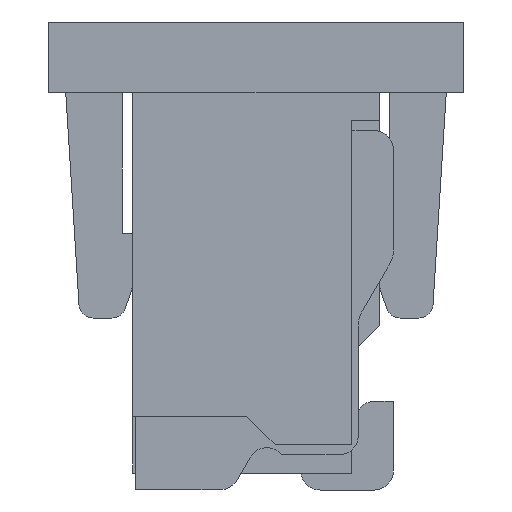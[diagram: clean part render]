
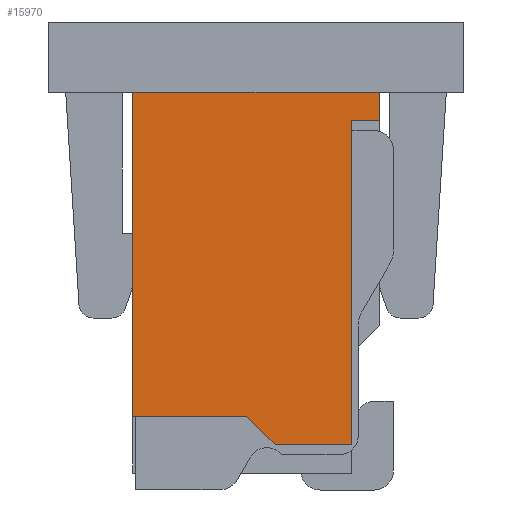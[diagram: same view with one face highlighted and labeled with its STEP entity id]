
A CAD part, left-side view. The second image highlights one B-rep face of the part: STEP entity #15970.
In plain terms, the highlighted planar face has unit normal (-1, 0, 0).
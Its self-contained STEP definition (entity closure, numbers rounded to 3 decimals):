
#46 = CARTESIAN_POINT ( 'NONE',  ( -4.325, 0.875, 1.35 ) ) ;
#1903 = ORIENTED_EDGE ( 'NONE', *, *, #24919, .F. ) ;
#1910 = VECTOR ( 'NONE', #14390, 1000. ) ;
#1976 = VERTEX_POINT ( 'NONE', #5256 ) ;
#2198 = CARTESIAN_POINT ( 'NONE',  ( -4.325, 0.875, -0.95 ) ) ;
#2320 = DIRECTION ( 'NONE',  ( -1., 0., 0. ) ) ;
#2381 = LINE ( 'NONE', #6657, #15160 ) ;
#2726 = ORIENTED_EDGE ( 'NONE', *, *, #3357, .F. ) ;
#2975 = CARTESIAN_POINT ( 'NONE',  ( -4.325, -0.875, 1.15 ) ) ;
#3357 = EDGE_CURVE ( 'NONE', #6268, #14417, #2381, .T. ) ;
#3622 = EDGE_CURVE ( 'NONE', #10567, #11619, #19929, .T. ) ;
#3997 = VECTOR ( 'NONE', #19440, 1000. ) ;
#4145 = FACE_OUTER_BOUND ( 'NONE', #9639, .T. ) ;
#4371 = VECTOR ( 'NONE', #19520, 1000. ) ;
#4597 = CARTESIAN_POINT ( 'NONE',  ( -4.325, -0.875, 1.15 ) ) ;
#5164 = VECTOR ( 'NONE', #8566, 1000. ) ;
#5253 = CARTESIAN_POINT ( 'NONE',  ( -4.325, -0.135, -1.15 ) ) ;
#5256 = CARTESIAN_POINT ( 'NONE',  ( -4.325, -0.135, -1.15 ) ) ;
#5651 = VECTOR ( 'NONE', #8804, 1000. ) ;
#5740 = VECTOR ( 'NONE', #5752, 1000. ) ;
#5752 = DIRECTION ( 'NONE',  ( 0., 0.707, 0.707 ) ) ;
#5875 = CARTESIAN_POINT ( 'NONE',  ( -4.325, -0.135, -1.15 ) ) ;
#6268 = VERTEX_POINT ( 'NONE', #46 ) ;
#6380 = AXIS2_PLACEMENT_3D ( 'NONE', #16268, #2320, #12404 ) ;
#6657 = CARTESIAN_POINT ( 'NONE',  ( -4.325, 0.875, 1.35 ) ) ;
#6837 = CARTESIAN_POINT ( 'NONE',  ( -4.325, -0.675, -1.15 ) ) ;
#7884 = EDGE_CURVE ( 'NONE', #19962, #6268, #24210, .T. ) ;
#8337 = EDGE_CURVE ( 'NONE', #10567, #14417, #18614, .T. ) ;
#8566 = DIRECTION ( 'NONE',  ( 0., 1., 0. ) ) ;
#8619 = VECTOR ( 'NONE', #21051, 1000. ) ;
#8804 = DIRECTION ( 'NONE',  ( 0., 0., 1. ) ) ;
#8985 = ORIENTED_EDGE ( 'NONE', *, *, #8337, .T. ) ;
#9639 = EDGE_LOOP ( 'NONE', ( #10786, #12857, #14788, #8985, #2726, #15422, #17906, #1903 ) ) ;
#9753 = LINE ( 'NONE', #5875, #5740 ) ;
#9826 = VERTEX_POINT ( 'NONE', #17043 ) ;
#9847 = EDGE_CURVE ( 'NONE', #22292, #11619, #16796, .T. ) ;
#10567 = VERTEX_POINT ( 'NONE', #4597 ) ;
#10786 = ORIENTED_EDGE ( 'NONE', *, *, #18956, .T. ) ;
#11619 = VERTEX_POINT ( 'NONE', #21427 ) ;
#12404 = DIRECTION ( 'NONE',  ( 0., 0., 1. ) ) ;
#12857 = ORIENTED_EDGE ( 'NONE', *, *, #9847, .T. ) ;
#13643 = LINE ( 'NONE', #5253, #3997 ) ;
#13972 = PLANE ( 'NONE',  #6380 ) ;
#14150 = DIRECTION ( 'NONE',  ( 0., -1., 0. ) ) ;
#14390 = DIRECTION ( 'NONE',  ( 0., 0., 1. ) ) ;
#14417 = VERTEX_POINT ( 'NONE', #22244 ) ;
#14788 = ORIENTED_EDGE ( 'NONE', *, *, #3622, .F. ) ;
#15160 = VECTOR ( 'NONE', #14150, 1000. ) ;
#15422 = ORIENTED_EDGE ( 'NONE', *, *, #7884, .F. ) ;
#15970 = ADVANCED_FACE ( 'NONE', ( #4145 ), #13972, .T. ) ;
#16268 = CARTESIAN_POINT ( 'NONE',  ( -4.325, 0.875, -1.35 ) ) ;
#16796 = LINE ( 'NONE', #24931, #8619 ) ;
#17043 = CARTESIAN_POINT ( 'NONE',  ( -4.325, 0.065, -0.95 ) ) ;
#17906 = ORIENTED_EDGE ( 'NONE', *, *, #18366, .T. ) ;
#18366 = EDGE_CURVE ( 'NONE', #19962, #9826, #19401, .T. ) ;
#18614 = LINE ( 'NONE', #2975, #5651 ) ;
#18956 = EDGE_CURVE ( 'NONE', #1976, #22292, #13643, .T. ) ;
#19401 = LINE ( 'NONE', #2198, #4371 ) ;
#19440 = DIRECTION ( 'NONE',  ( 0., -1., 0. ) ) ;
#19520 = DIRECTION ( 'NONE',  ( 0., -1., 0. ) ) ;
#19929 = LINE ( 'NONE', #24325, #5164 ) ;
#19962 = VERTEX_POINT ( 'NONE', #24806 ) ;
#20452 = CARTESIAN_POINT ( 'NONE',  ( -4.325, 0.875, -0.95 ) ) ;
#21051 = DIRECTION ( 'NONE',  ( 0., 0., 1. ) ) ;
#21427 = CARTESIAN_POINT ( 'NONE',  ( -4.325, -0.675, 1.15 ) ) ;
#22244 = CARTESIAN_POINT ( 'NONE',  ( -4.325, -0.875, 1.35 ) ) ;
#22292 = VERTEX_POINT ( 'NONE', #6837 ) ;
#24210 = LINE ( 'NONE', #20452, #1910 ) ;
#24325 = CARTESIAN_POINT ( 'NONE',  ( -4.325, -0.875, 1.15 ) ) ;
#24806 = CARTESIAN_POINT ( 'NONE',  ( -4.325, 0.875, -0.95 ) ) ;
#24919 = EDGE_CURVE ( 'NONE', #1976, #9826, #9753, .T. ) ;
#24931 = CARTESIAN_POINT ( 'NONE',  ( -4.325, -0.675, -1.15 ) ) ;
